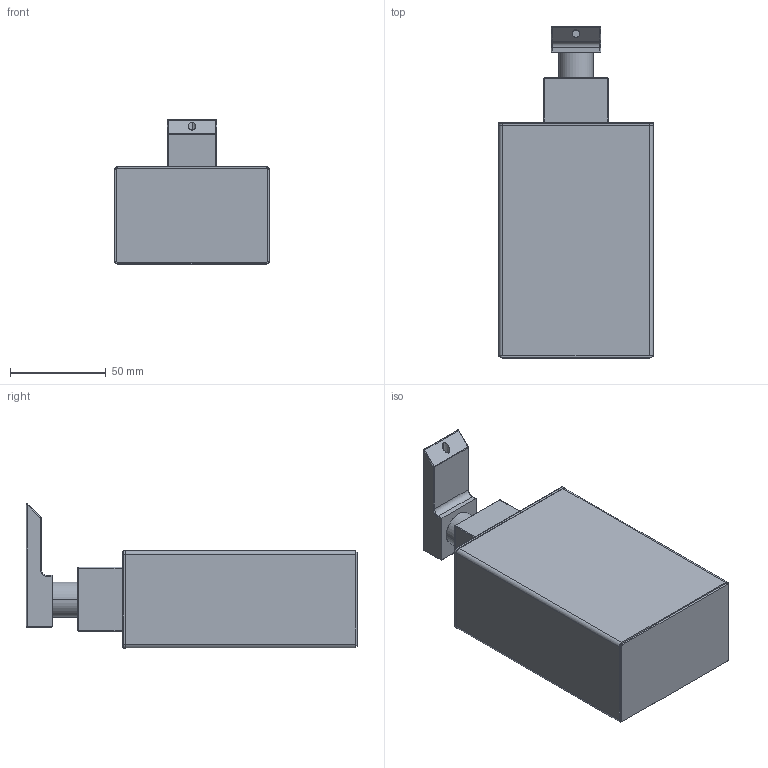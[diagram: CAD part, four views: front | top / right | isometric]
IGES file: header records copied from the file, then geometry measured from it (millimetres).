
Start section: SolidWorks IGES file using analytic representation for surfaces
Global section: file name: G:\Projects\New project\For Marketing\IGS\IGS\2015-12-11\497831002VW.IGS; native system: SolidWorks 2010; preprocessor: SolidWorks 2010; author: linda; date: 151207.140749; units: millimetre
Bounding box: 80.8 x 173.02 x 75.19 mm (x, y, z)
Surface area: 50137.3 mm2 (no closed solid volume)
Topology: 0 solids, 0 shells, 93 faces, 830 edges, 820 vertices
Faces by surface type: revolution 50, bspline 43
